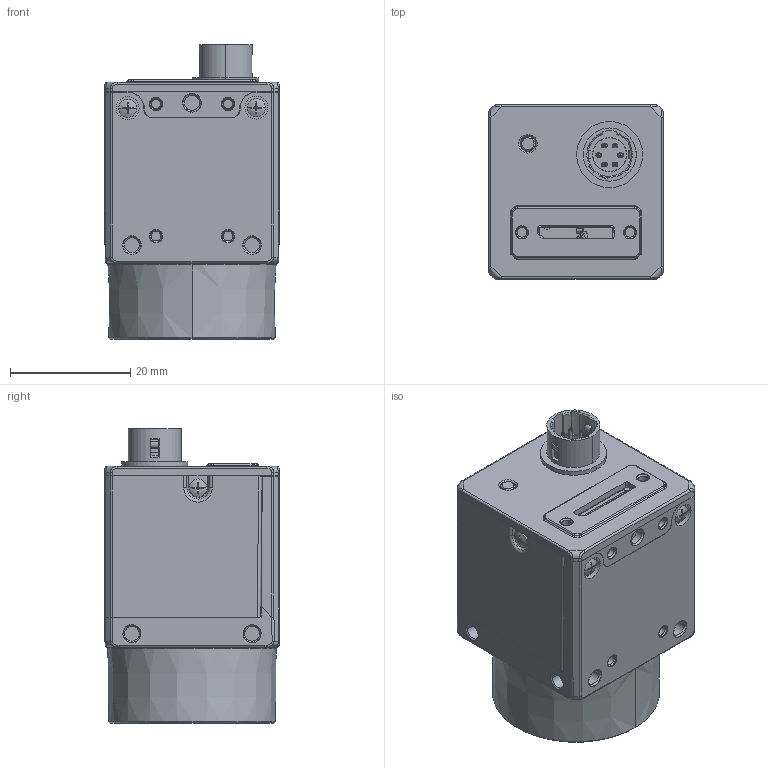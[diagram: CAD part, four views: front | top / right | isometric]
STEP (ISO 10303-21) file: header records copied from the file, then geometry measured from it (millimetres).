
FILE_DESCRIPTION((''),'2;1');
FILE_NAME('00-CH120-10GMCUMC-V4_0_ASM','2023-01-13T18:49:38',('sunli10'),(''),'CREO PARAMETRIC BY PTC INC, 2020044','CREO PARAMETRIC BY PTC INC, 2020044','');
FILE_SCHEMA(('CONFIG_CONTROL_DESIGN'));
Products named in the file (1): 00-CH120-10GMCUMC-V4_0_ASM
Bounding box: 29.03 x 29 x 49.1 mm (x, y, z)
Volume: 26292.7 mm3; surface area: 16787.6 mm2
Topology: 3 solids, 54 shells, 2326 faces, 6381 edges, 4107 vertices
Faces by surface type: plane 1060, cylinder 791, bspline 251, torus 100, cone 99, extrusion 15, sphere 10
Entity records: 93330 total; most frequent: CARTESIAN_POINT 36729, ORIENTED_EDGE 12599, DIRECTION 10660, EDGE_CURVE 6379, VERTEX_POINT 4107, AXIS2_PLACEMENT_3D 3693, VECTOR 3274, LINE 3259
